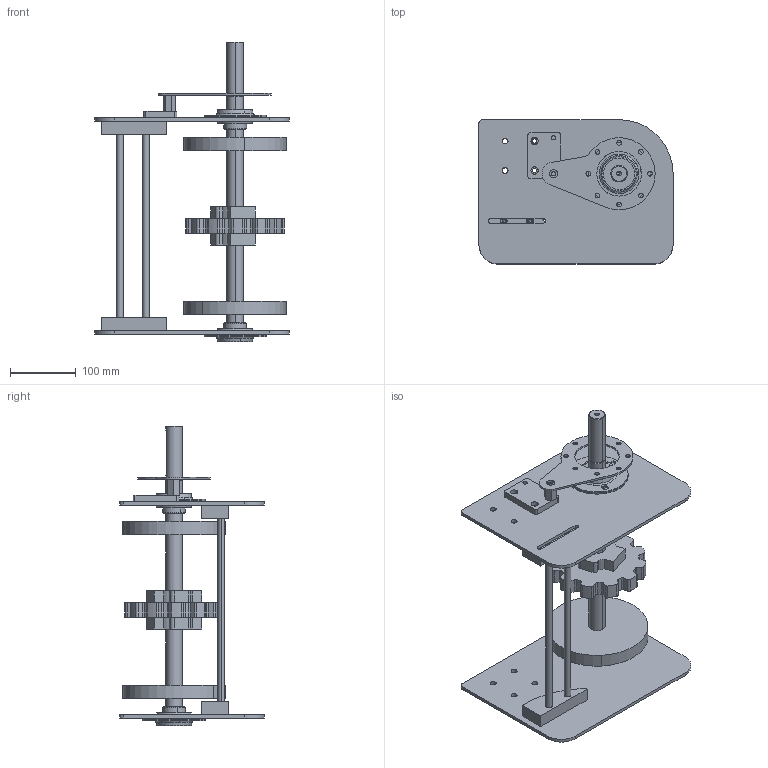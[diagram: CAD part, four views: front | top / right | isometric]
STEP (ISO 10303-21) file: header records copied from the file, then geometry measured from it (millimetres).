
FILE_DESCRIPTION (( 'STEP AP203' ), '1' );
FILE_NAME ('2000.1200.149.STEP', '2013-01-29T14:36:20', ( 'Alusic' ), ( 'Alusic' ), 'SwSTEP 2.0', 'SolidWorks 2011', '' );
FILE_SCHEMA (( 'CONFIG_CONTROL_DESIGN' ));
Length unit declared in the file: millimetre
Products named in the file (11): 2000.1200.103; 2000.1200.149; 2000.1200.104; 2000.001.102; 084.808.004; 084.802.027; 2000.001.015; 2000.001.014; RUOTE DI TRAINO NS882_NS882T12R25; SBPF 205; 2000.001.013
Assembly tree (15 placements, depth 2):
  2000.1200.149
    2000.1200.104  x2
    084.802.027
    2000.001.014  x2
    2000.001.013  x2
    2000.001.015  x2
    SBPF 205  x2
    2000.1200.103
    2000.001.102
    084.808.004
    RUOTE DI TRAINO NS882_NS882T12R25
Bounding box: 296.5 x 220 x 457.5 mm (x, y, z)
Volume: 2336067.3 mm3; surface area: 597829.8 mm2
Topology: 19 solids, 19 shells, 497 faces, 1325 edges, 859 vertices
Faces by surface type: cylinder 232, plane 191, cone 38, sphere 20, torus 16
Entity records: 13289 total; most frequent: CARTESIAN_POINT 2385, DIRECTION 2124, ORIENTED_EDGE 1936, EDGE_CURVE 968, AXIS2_PLACEMENT_3D 810, VERTEX_POINT 635, LINE 504, VECTOR 504
